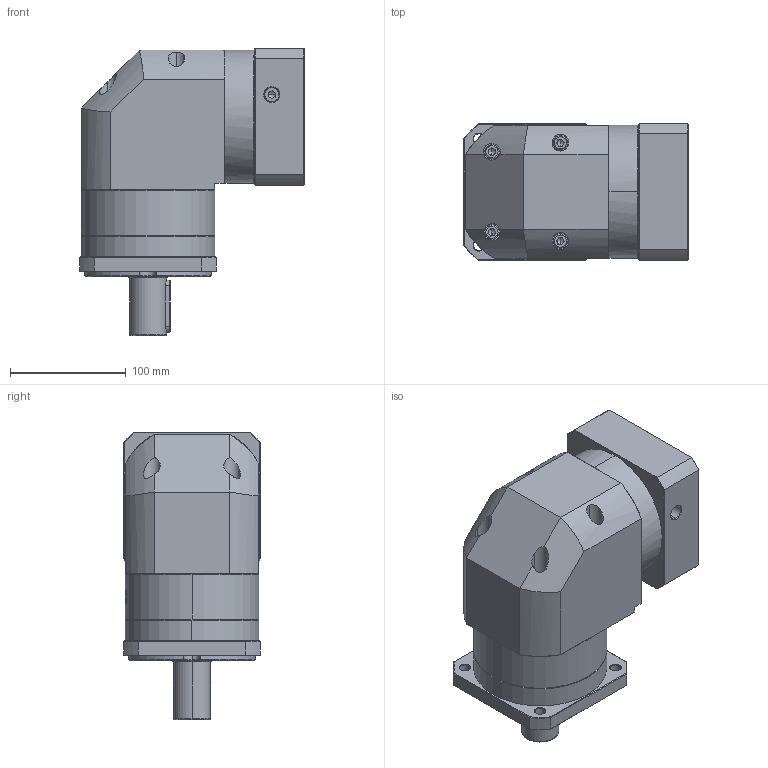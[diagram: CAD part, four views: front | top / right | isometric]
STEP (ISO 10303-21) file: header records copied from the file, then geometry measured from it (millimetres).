
FILE_DESCRIPTION (( 'STEP AP214' ), '1' );
FILE_NAME ('ZFR120A-D32-L1-P2-19-95-115-M8.step', '2023-08-27T08:06:44', ( '' ), ( '' ), 'SwSTEP 2.0', 'SolidWorks 2016', '' );
FILE_SCHEMA (( 'AUTOMOTIVE_DESIGN' ));
Length unit declared in the file: millimetre
Products named in the file (1): ZFR120A-D32-L1-P2-19-95-115-M8
Bounding box: 193.9 x 118 x 248 mm (x, y, z)
Volume: 2913982.5 mm3; surface area: 245228.9 mm2
Topology: 6 solids, 6 shells, 2264 faces, 5984 edges, 3825 vertices
Faces by surface type: plane 1061, cylinder 434, bspline 424, cone 337, torus 8
Entity records: 124441 total; most frequent: CARTESIAN_POINT 49001, ORIENTED_EDGE 11908, DIRECTION 8636, EDGE_CURVE 5954, VERTEX_POINT 3825, VECTOR 3158, LINE 3158, AXIS2_PLACEMENT_3D 2739
